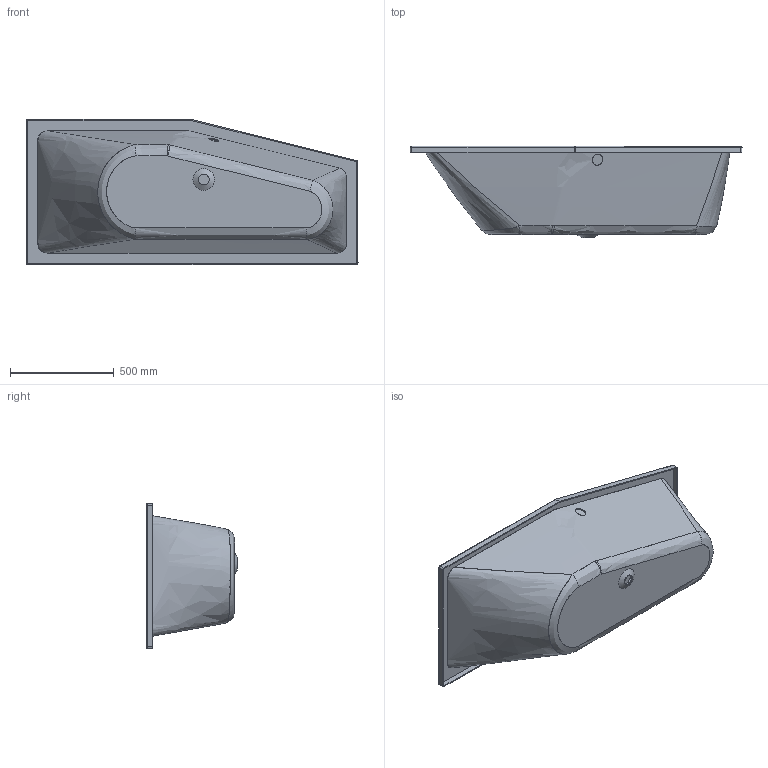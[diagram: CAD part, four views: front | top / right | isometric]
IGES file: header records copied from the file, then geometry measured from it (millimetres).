
Start section: SolidWorks IGES file using analytic representation for surfaces
Global section: file name: D:\Users\M.Szymanski\Desktop\Wanny\Combi\03. do przegrania\WAL_COMBI_160x70.IGS; native system: SolidWorks 2011; preprocessor: SolidWorks 2011; author: M.Szymanski; date: 180924.132909; units: millimetre
Bounding box: 1600 x 440.21 x 700 mm (x, y, z)
Surface area: 4329080.8 mm2 (no closed solid volume)
Topology: 0 solids, 0 shells, 75 faces, 664 edges, 815 vertices
Faces by surface type: bspline 44, revolution 31
